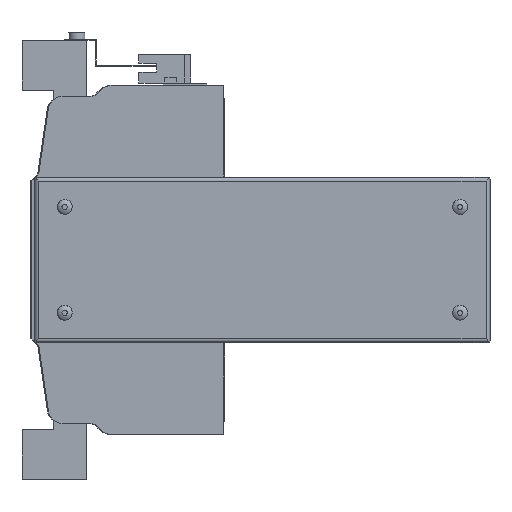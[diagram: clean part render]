
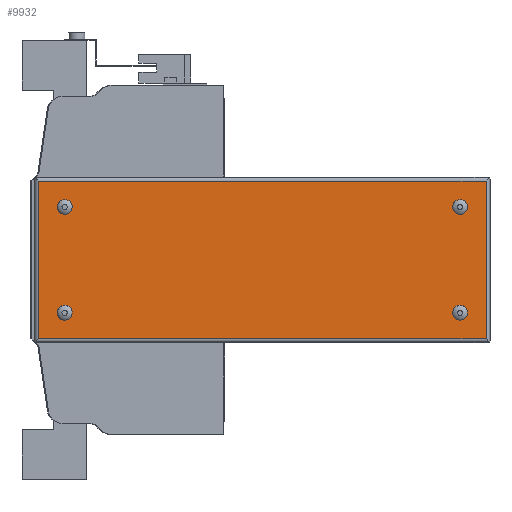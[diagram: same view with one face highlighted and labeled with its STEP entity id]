
A CAD part, left-side view. The second image highlights one B-rep face of the part: STEP entity #9932.
In plain terms, the highlighted planar face has unit normal (-1, 0, 0).
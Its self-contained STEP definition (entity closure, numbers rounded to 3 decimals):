
#289=PLANE('',#10689);
#987=LINE('',#15292,#2058);
#988=LINE('',#15295,#2059);
#989=LINE('',#15297,#2060);
#990=LINE('',#15299,#2061);
#2058=VECTOR('',#12392,1000.);
#2059=VECTOR('',#12393,1000.);
#2060=VECTOR('',#12394,1000.);
#2061=VECTOR('',#12395,1000.);
#3800=ORIENTED_EDGE('',*,*,#6011,.F.);
#3801=ORIENTED_EDGE('',*,*,#6012,.F.);
#3802=ORIENTED_EDGE('',*,*,#6013,.F.);
#3803=ORIENTED_EDGE('',*,*,#6014,.F.);
#3804=ORIENTED_EDGE('',*,*,#6015,.F.);
#3805=ORIENTED_EDGE('',*,*,#6016,.F.);
#3806=ORIENTED_EDGE('',*,*,#6017,.T.);
#3807=ORIENTED_EDGE('',*,*,#6018,.T.);
#6011=EDGE_CURVE('',#7223,#7223,#7889,.F.);
#6012=EDGE_CURVE('',#7224,#7224,#7890,.F.);
#6013=EDGE_CURVE('',#7225,#7225,#7891,.F.);
#6014=EDGE_CURVE('',#7226,#7226,#7892,.F.);
#6015=EDGE_CURVE('',#7227,#7228,#987,.T.);
#6016=EDGE_CURVE('',#7229,#7227,#988,.T.);
#6017=EDGE_CURVE('',#7229,#7230,#989,.T.);
#6018=EDGE_CURVE('',#7230,#7228,#990,.T.);
#7223=VERTEX_POINT('',#15285);
#7224=VERTEX_POINT('',#15287);
#7225=VERTEX_POINT('',#15289);
#7226=VERTEX_POINT('',#15291);
#7227=VERTEX_POINT('',#15293);
#7228=VERTEX_POINT('',#15294);
#7229=VERTEX_POINT('',#15296);
#7230=VERTEX_POINT('',#15298);
#7889=CIRCLE('',#10690,3.7);
#7890=CIRCLE('',#10691,3.7);
#7891=CIRCLE('',#10692,3.7);
#7892=CIRCLE('',#10693,3.7);
#8360=EDGE_LOOP('',(#3800));
#8361=EDGE_LOOP('',(#3801));
#8362=EDGE_LOOP('',(#3802));
#8363=EDGE_LOOP('',(#3803));
#8364=EDGE_LOOP('',(#3804,#3805,#3806,#3807));
#9109=FACE_BOUND('',#8360,.T.);
#9110=FACE_BOUND('',#8361,.T.);
#9111=FACE_BOUND('',#8362,.T.);
#9112=FACE_BOUND('',#8363,.T.);
#9113=FACE_BOUND('',#8364,.T.);
#9932=ADVANCED_FACE('',(#9109,#9110,#9111,#9112,#9113),#289,.F.);
#10689=AXIS2_PLACEMENT_3D('',#15283,#12382,#12383);
#10690=AXIS2_PLACEMENT_3D('',#15284,#12384,#12385);
#10691=AXIS2_PLACEMENT_3D('',#15286,#12386,#12387);
#10692=AXIS2_PLACEMENT_3D('',#15288,#12388,#12389);
#10693=AXIS2_PLACEMENT_3D('',#15290,#12390,#12391);
#12382=DIRECTION('',(1.,0.,0.));
#12383=DIRECTION('',(0.,0.,-1.));
#12384=DIRECTION('',(1.,0.,0.));
#12385=DIRECTION('',(0.,0.,-1.));
#12386=DIRECTION('',(1.,0.,0.));
#12387=DIRECTION('',(0.,0.,-1.));
#12388=DIRECTION('',(1.,0.,0.));
#12389=DIRECTION('',(0.,0.,-1.));
#12390=DIRECTION('',(1.,0.,0.));
#12391=DIRECTION('',(0.,0.,-1.));
#12392=DIRECTION('',(0.,-1.,0.));
#12393=DIRECTION('',(0.,0.,1.));
#12394=DIRECTION('',(0.,-1.,0.));
#12395=DIRECTION('',(0.,0.,1.));
#15283=CARTESIAN_POINT('',(-66.,-131.95,40.5));
#15284=CARTESIAN_POINT('',(-66.,-117.95,26.5));
#15285=CARTESIAN_POINT('',(-66.,-117.95,22.8));
#15286=CARTESIAN_POINT('',(-66.,-117.95,-26.5));
#15287=CARTESIAN_POINT('',(-66.,-117.95,-30.2));
#15288=CARTESIAN_POINT('',(-66.,80.05,26.5));
#15289=CARTESIAN_POINT('',(-66.,80.05,22.8));
#15290=CARTESIAN_POINT('',(-66.,80.05,-26.5));
#15291=CARTESIAN_POINT('',(-66.,80.05,-30.2));
#15292=CARTESIAN_POINT('',(-66.,228.,39.5));
#15293=CARTESIAN_POINT('',(-66.,93.05,39.5));
#15294=CARTESIAN_POINT('',(-66.,-130.95,39.5));
#15295=CARTESIAN_POINT('',(-66.,93.05,-83.));
#15296=CARTESIAN_POINT('',(-66.,93.05,-39.5));
#15297=CARTESIAN_POINT('',(-66.,228.,-39.5));
#15298=CARTESIAN_POINT('',(-66.,-130.95,-39.5));
#15299=CARTESIAN_POINT('',(-66.,-130.95,-83.));
